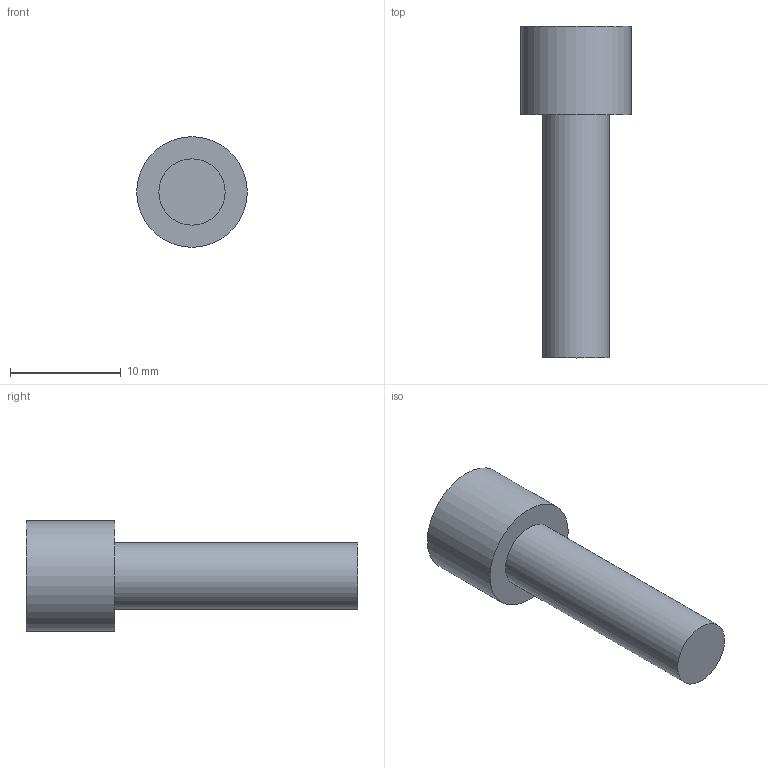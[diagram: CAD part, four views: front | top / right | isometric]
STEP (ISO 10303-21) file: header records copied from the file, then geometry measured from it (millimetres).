
FILE_DESCRIPTION(('Open CASCADE Model'),'2;1');
FILE_NAME('Open CASCADE Shape Model','2026-10-17T21:54:41',('Author'),( 'Open CASCADE'),'Open CASCADE STEP processor 7.9','Open CASCADE 7.9' ,'Unknown');
FILE_SCHEMA(('AUTOMOTIVE_DESIGN { 1 0 10303 214 1 1 1 1 }'));
Length unit declared in the file: millimetre
Products named in the file (1): Open CASCADE STEP translator 7.9 3
Bounding box: 10 x 30 x 10 mm (x, y, z)
Volume: 1250.4 mm3; surface area: 823.1 mm2
Topology: 1 solids, 1 shells, 5 faces, 6 edges, 4 vertices
Faces by surface type: plane 3, cylinder 2
Full cylindrical faces by diameter (mm): 6 x1, 10 x1
Entity records: 192 total; most frequent: DIRECTION 34, CARTESIAN_POINT 28, ORIENTED_EDGE 12, PCURVE 12, DEFINITIONAL_REPRESENTATION 12, AXIS2_PLACEMENT_3D 10, LINE 10, VECTOR 10
